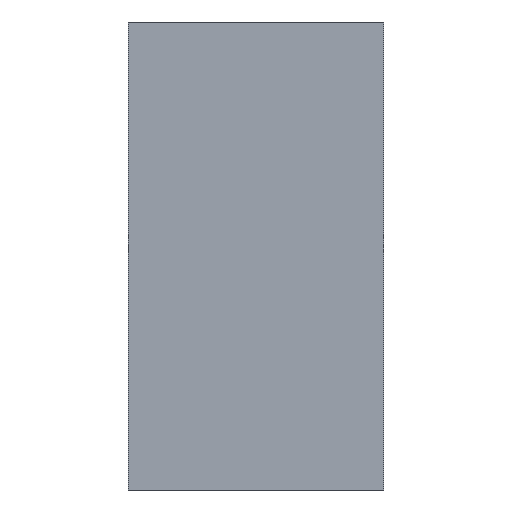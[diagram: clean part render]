
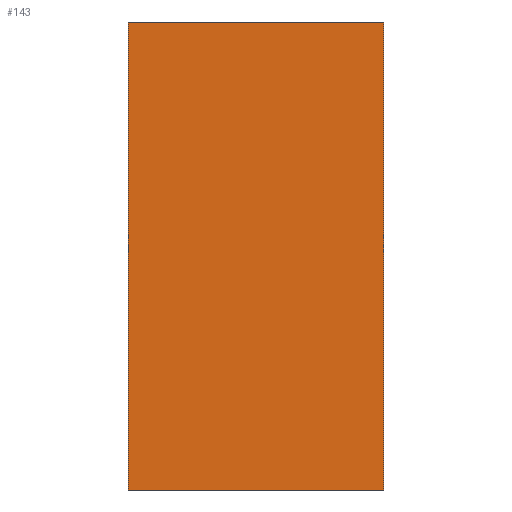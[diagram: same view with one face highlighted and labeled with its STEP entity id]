
A CAD part, front view. The second image highlights one B-rep face of the part: STEP entity #143.
In plain terms, the highlighted planar face has unit normal (0, -1, 0).
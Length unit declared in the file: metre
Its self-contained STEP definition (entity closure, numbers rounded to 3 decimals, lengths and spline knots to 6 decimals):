
#32=ORIENTED_EDGE('',*,*,#64,.F.);
#33=ORIENTED_EDGE('',*,*,#51,.F.);
#34=ORIENTED_EDGE('',*,*,#65,.T.);
#35=ORIENTED_EDGE('',*,*,#62,.T.);
#51=EDGE_CURVE('',#69,#66,#81,.T.);
#62=EDGE_CURVE('',#77,#76,#92,.T.);
#64=EDGE_CURVE('',#66,#76,#94,.T.);
#65=EDGE_CURVE('',#69,#77,#95,.T.);
#66=VERTEX_POINT('',#206);
#69=VERTEX_POINT('',#211);
#76=VERTEX_POINT('',#233);
#77=VERTEX_POINT('',#235);
#81=LINE('',#212,#99);
#92=LINE('',#234,#110);
#94=LINE('',#238,#112);
#95=LINE('',#239,#113);
#99=VECTOR('',#174,1.);
#110=VECTOR('',#193,1.);
#112=VECTOR('',#197,1.);
#113=VECTOR('',#198,1.);
#119=EDGE_LOOP('',(#32,#33,#34,#35));
#127=FACE_BOUND('',#119,.T.);
#135=PLANE('',#164);
#143=ADVANCED_FACE('',(#127),#135,.T.);
#164=AXIS2_PLACEMENT_3D('',#237,#195,#196);
#174=DIRECTION('',(1.,0.,0.));
#193=DIRECTION('',(1.,0.,0.));
#195=DIRECTION('',(0.,-1.,0.));
#196=DIRECTION('',(0.,0.,-1.));
#197=DIRECTION('',(0.,0.,-1.));
#198=DIRECTION('',(0.,0.,-1.));
#206=CARTESIAN_POINT('',(-0.035,-0.04069,0.001662));
#211=CARTESIAN_POINT('',(-0.037,-0.04069,0.001662));
#212=CARTESIAN_POINT('',(-0.037,-0.04069,0.001662));
#233=CARTESIAN_POINT('',(-0.035,-0.04069,-0.002001));
#234=CARTESIAN_POINT('',(-0.037,-0.04069,-0.002001));
#235=CARTESIAN_POINT('',(-0.037,-0.04069,-0.002001));
#237=CARTESIAN_POINT('',(-0.037,-0.04069,-0.00017));
#238=CARTESIAN_POINT('',(-0.035,-0.04069,-0.00017));
#239=CARTESIAN_POINT('',(-0.037,-0.04069,-0.00017));
